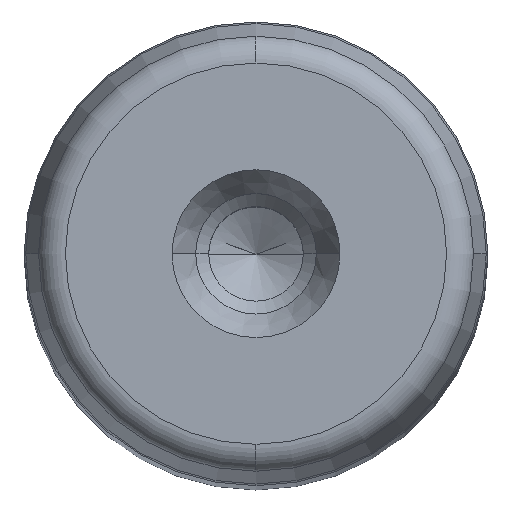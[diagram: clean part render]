
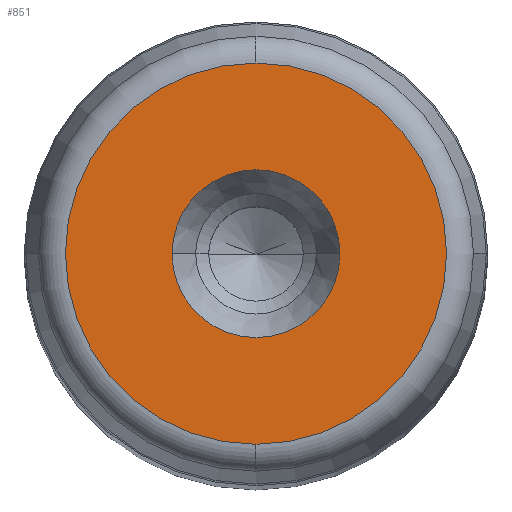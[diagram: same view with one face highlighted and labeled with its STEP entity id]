
A CAD part, top view. The second image highlights one B-rep face of the part: STEP entity #851.
In plain terms, the highlighted planar face has unit normal (0, 0, 1) as drawn and (0, 1, 0) by its records, which use the part's own axes.
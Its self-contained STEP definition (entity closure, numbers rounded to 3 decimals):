
#281=CARTESIAN_POINT('',(9.05,280.0,0.0));
#282=VERTEX_POINT('',#281);
#289=CARTESIAN_POINT('',(-9.05,280.0,0.));
#290=VERTEX_POINT('',#289);
#291=CARTESIAN_POINT('',(0.0,280.0,0.0));
#292=DIRECTION('',(0.0,1.0,0.0));
#293=DIRECTION('',(1.0,0.0,0.0));
#294=AXIS2_PLACEMENT_3D('',#291,#292,#293);
#295=CIRCLE('',#294,9.05);
#296=EDGE_CURVE('',#282,#290,#295,.T.);
#313=CARTESIAN_POINT('',(0.0,280.,20.554));
#314=VERTEX_POINT('',#313);
#324=CARTESIAN_POINT('',(0.,280.,-20.554));
#325=VERTEX_POINT('',#324);
#326=CARTESIAN_POINT('',(0.0,280.,0.0));
#327=DIRECTION('',(0.0,1.0,0.0));
#328=DIRECTION('',(1.0,0.0,0.0));
#329=AXIS2_PLACEMENT_3D('',#326,#327,#328);
#330=CIRCLE('',#329,20.554);
#331=EDGE_CURVE('',#325,#314,#330,.T.);
#812=CARTESIAN_POINT('',(20.554,280.,0.0));
#813=VERTEX_POINT('',#812);
#814=CARTESIAN_POINT('',(0.0,280.,0.0));
#815=DIRECTION('',(0.0,1.0,0.0));
#816=DIRECTION('',(1.0,0.0,0.0));
#817=AXIS2_PLACEMENT_3D('',#814,#815,#816);
#818=CIRCLE('',#817,20.554);
#819=EDGE_CURVE('',#813,#325,#818,.T.);
#821=CARTESIAN_POINT('',(0.0,280.,0.0));
#822=DIRECTION('',(0.0,1.0,0.0));
#823=DIRECTION('',(1.0,0.0,0.0));
#824=AXIS2_PLACEMENT_3D('',#821,#822,#823);
#825=CIRCLE('',#824,20.554);
#826=EDGE_CURVE('',#314,#813,#825,.T.);
#831=CARTESIAN_POINT('',(-22.61,280.0,-22.61));
#832=DIRECTION('',(0.0,1.0,0.0));
#833=DIRECTION('',(0.0,0.0,1.0));
#834=AXIS2_PLACEMENT_3D('',#831,#832,#833);
#835=PLANE('',#834);
#836=ORIENTED_EDGE('',*,*,#819,.T.);
#837=ORIENTED_EDGE('',*,*,#331,.T.);
#838=ORIENTED_EDGE('',*,*,#826,.T.);
#839=EDGE_LOOP('',(#836,#837,#838));
#840=FACE_OUTER_BOUND('',#839,.T.);
#841=ORIENTED_EDGE('',*,*,#296,.F.);
#842=CARTESIAN_POINT('',(0.0,280.0,0.0));
#843=DIRECTION('',(0.0,1.0,0.0));
#844=DIRECTION('',(1.0,0.0,0.0));
#845=AXIS2_PLACEMENT_3D('',#842,#843,#844);
#846=CIRCLE('',#845,9.05);
#847=EDGE_CURVE('',#290,#282,#846,.T.);
#848=ORIENTED_EDGE('',*,*,#847,.F.);
#849=EDGE_LOOP('',(#841,#848));
#850=FACE_BOUND('',#849,.T.);
#851=ADVANCED_FACE('',(#840,#850),#835,.T.);
